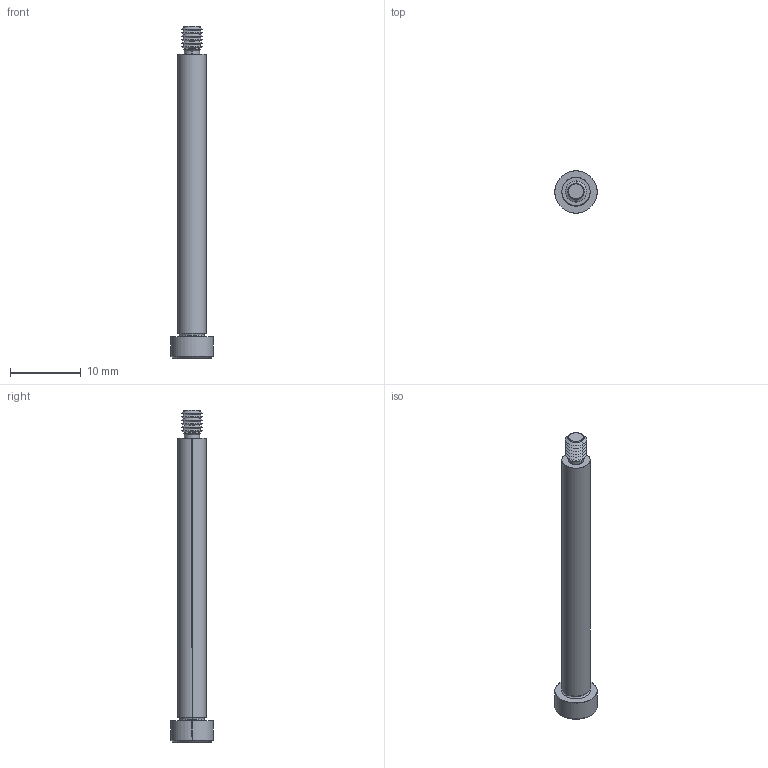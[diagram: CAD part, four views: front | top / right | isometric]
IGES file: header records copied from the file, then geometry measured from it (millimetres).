
Start section: SolidWorks IGES file using analytic representation for surfaces
Global section: file name: C:\Users\IanO\Documents\Temp Folder\GENERAL\SCREW REVISION\P0130_v2\P0130.T5_v2_20220106_IGES\P0130.040-040-T5.igs; native system: SolidWorks 2019; preprocessor: SolidWorks 2019; author: IanO; date: 220106.221033; units: millimetre
Bounding box: 6 x 6 x 47 mm (x, y, z)
Surface area: 687.5 mm2 (no closed solid volume)
Topology: 0 solids, 0 shells, 68 faces, 520 edges, 518 vertices
Faces by surface type: revolution 48, bspline 20
